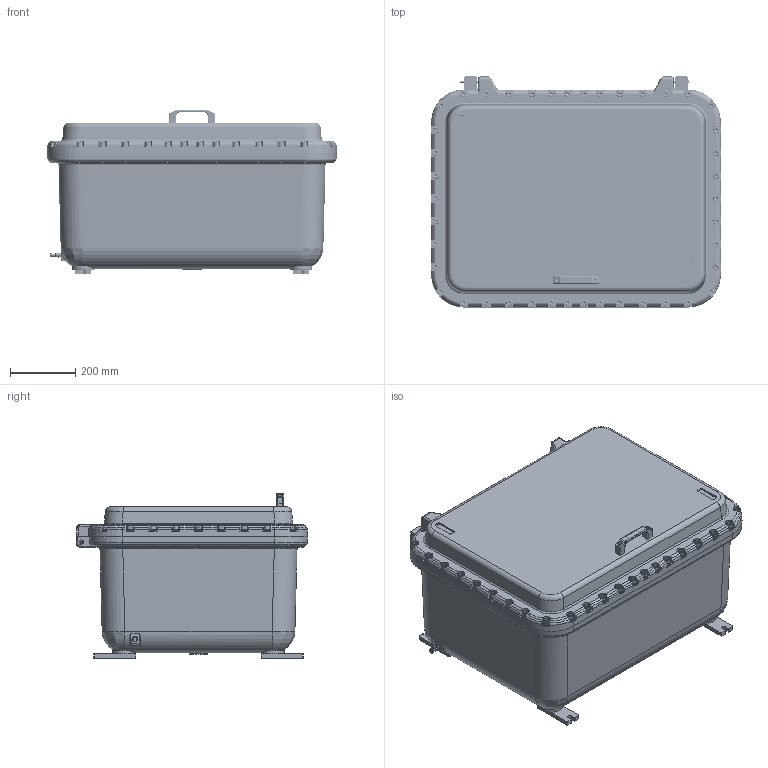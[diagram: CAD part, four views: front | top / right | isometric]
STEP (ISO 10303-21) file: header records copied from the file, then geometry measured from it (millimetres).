
FILE_DESCRIPTION(('STEP AP214'), '1');
FILE_NAME('ﾑﾌﾄ 346400 391 000 _ ﾊﾂﾌﾊ 896745 Exd (ﾆ2, ﾂ09)', '', ('UNSPECIFIED'), ('UNSPECIFIED'), 'ASCON STEP Converter 1.3', 'ASCON Math Kernel', '');
FILE_SCHEMA(('AUTOMOTIVE_DESIGN { 1 0 10303 214 3 1 1}'));
Length unit declared in the file: millimetre
Products named in the file (31): ﾑﾌﾄ 346400 391 000 ﾑﾁ; ﾑﾌﾄ 346400 391 001; ﾑﾌﾄ 346400 391 002; ﾑﾌﾄ 346400 391 004; ﾑﾌﾄ 346400 391 003; ﾑﾌﾄ 346400 391 101
Assembly tree (169 placements, depth 2):
  ﾑﾌﾄ 346400 391 000 ﾑﾁ
    ﾑﾌﾄ 346400 391 001
    ﾑﾌﾄ 346400 391 002
    (unnamed)  x4
    (unnamed)  x2
    (unnamed)
    (unnamed)  x2
    (unnamed)  x2
    ﾑﾌﾄ 346400 391 004  x2
    (unnamed)  x2
    (unnamed)
    (unnamed)  x2
    (unnamed)  x42
    (unnamed)  x42
    (unnamed)  x42
    ﾑﾌﾄ 346400 391 003  x4
    (unnamed)
    (unnamed)
    (unnamed)
    (unnamed)
    (unnamed)
    (unnamed)
    (unnamed)
    (unnamed)
    ﾑﾌﾄ 346400 391 101
    (unnamed)
    (unnamed)
    (unnamed)
    (unnamed)
    (unnamed)
    (unnamed)  x5
Bounding box: 890.1 x 710.13 x 505 mm (x, y, z)
Volume: 1789730.2 mm3; surface area: 5456670.1 mm2
Topology: 167 solids, 171 shells, 3113 faces, 7704 edges, 5005 vertices
Faces by surface type: plane 1526, cylinder 942, bspline 263, torus 194, cone 188
Full cylindrical faces by diameter (mm): 3 x2, 4.2 x20, 5 x8, 5.5 x4, 6 x11, 6.3 x2, 6.4 x5, 6.5 x10, 6.647 x2, 6.75 x1, 7 x4, 8 x1, 8.5 x2, 9 x4, 10 x4, 10.25 x4, 10.75 x42, 11 x14, 12 x50, 12.5 x4, 13 x46, 13.5 x42, 16 x2, 17 x2, 18 x42, 21.5 x4, 23 x4, 24 x42, 25 x2, 58 x1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
Entity records: 126650 total; most frequent: CARTESIAN_POINT 62449, ORIENTED_EDGE 9348, DIRECTION 8512, EDGE_CURVE 4678, VERTEX_POINT 3106, AXIS2_PLACEMENT_3D 3094, EDGE_LOOP 2392, LINE 2324
